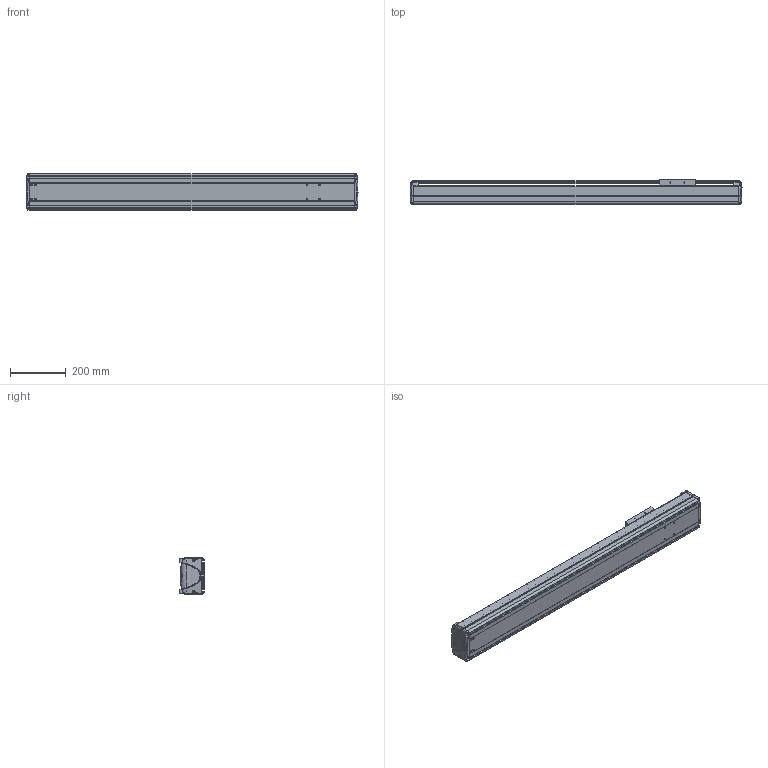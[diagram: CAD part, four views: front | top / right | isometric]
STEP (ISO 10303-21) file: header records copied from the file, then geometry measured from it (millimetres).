
FILE_DESCRIPTION((''),'2;1');
FILE_NAME('BE30E-ST-M_N-85_IGS_PRT','2017-06-17T',(' '),(''),'PRO/ENGINEER BY PARAMETRIC TECHNOLOGY CORPORATION, 2015030','PRO/ENGINEER BY PARAMETRIC TECHNOLOGY CORPORATION, 2015030','');
FILE_SCHEMA(('CONFIG_CONTROL_DESIGN'));
Length unit declared in the file: millimetre
Products named in the file (1): BE30E-ST-M_N-85_IGS_PRT
Bounding box: 1190 x 89.8 x 130 mm (x, y, z)
Volume: 3616168.8 mm3; surface area: 1425473.6 mm2
Topology: 3 solids, 86 shells, 1356 faces, 3640 edges, 2378 vertices
Faces by surface type: cylinder 615, plane 588, bspline 55, torus 42, cone 32, sphere 24
Entity records: 45453 total; most frequent: CARTESIAN_POINT 11368, DIRECTION 7032, ORIENTED_EDGE 6910, EDGE_CURVE 3620, AXIS2_PLACEMENT_3D 2546, VERTEX_POINT 2378, VECTOR 1940, LINE 1940
